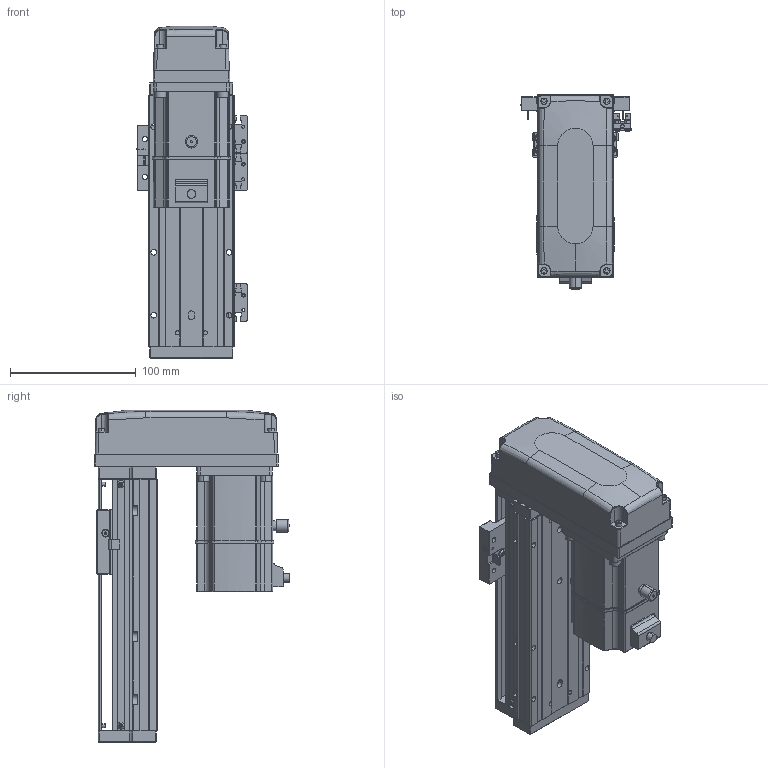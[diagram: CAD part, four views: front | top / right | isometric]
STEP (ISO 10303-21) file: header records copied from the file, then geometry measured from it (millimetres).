
FILE_DESCRIPTION (( 'STEP AP203' ), '1' );
FILE_NAME ('KTHA60-100-BM-M20-C4L.step', '2022-12-16T01:34:19', ( '微软用户' ), ( '微软中国' ), 'SwSTEP 2.0', 'SolidWorks 2020', '' );
FILE_SCHEMA (( 'CONFIG_CONTROL_DESIGN' ));
Length unit declared in the file: millimetre
Products named in the file (17): KTHA60-004; GBT 70.1-M4×16; _X2_4E0983F1_X0_200W_1; KTHA60-005; GBT77-2000M3-3; KTHA60-100-BM-M20-C4L; GB¨uT 70.2-M3¡Á5_M3¡Á6; GBT 70.1-M3℅6; GBT 70.3-M3℅6; CTHA60-016; EE_SX911P_R; KTHA60-002; CTHA60-017; BTH80-026; KTHA60-001_200; CTHA60-021; CTHA60-006-2_CTHA60-006-2
Assembly tree (51 placements, depth 2):
  KTHA60-100-BM-M20-C4L
    KTHA60-001_200
    KTHA60-004
    KTHA60-005
    GB¨uT 70.2-M3¡Á5_M3¡Á6  x6
    GBT 70.3-M3℅6  x4
    EE_SX911P_R  x3
    CTHA60-017  x3
    CTHA60-021  x2
    GBT 70.1-M4×16  x8
    GBT77-2000M3-3  x6
    GBT 70.1-M3℅6  x10
    CTHA60-016  x2
    KTHA60-002
    BTH80-026
    CTHA60-006-2_CTHA60-006-2
    _X2_4E0983F1_X0_200W_1
Bounding box: 87.72 x 155.2 x 264 mm (x, y, z)
Volume: 871866 mm3; surface area: 229686.5 mm2
Topology: 54 solids, 54 shells, 2368 faces, 5605 edges, 3442 vertices
Faces by surface type: plane 1249, cylinder 626, cone 276, bspline 109, torus 92, sphere 16
Entity records: 42948 total; most frequent: CARTESIAN_POINT 10146, DIRECTION 6258, ORIENTED_EDGE 6258, EDGE_CURVE 3129, AXIS2_PLACEMENT_3D 2173, VERTEX_POINT 1951, LINE 1912, VECTOR 1912
